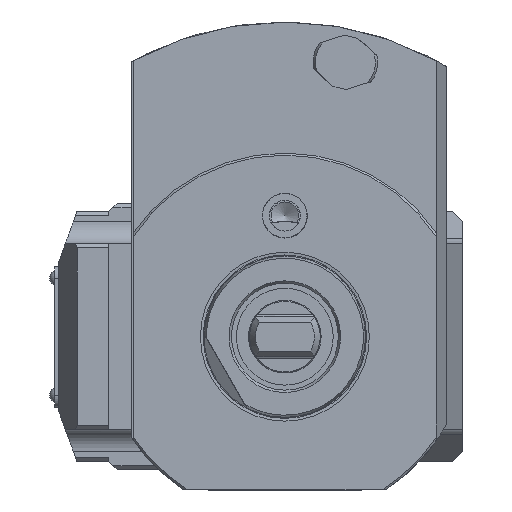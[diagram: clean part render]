
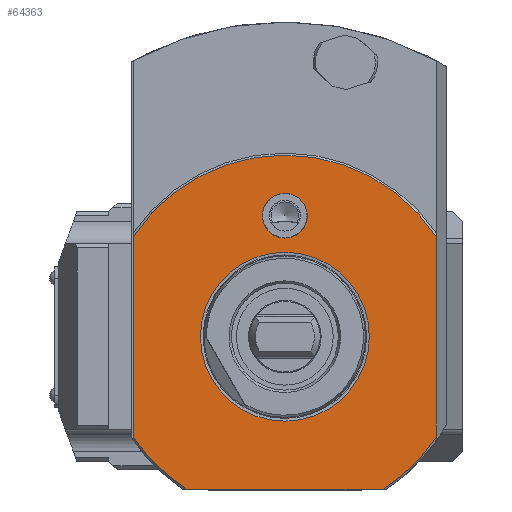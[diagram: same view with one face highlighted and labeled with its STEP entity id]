
A CAD part, left-side view. The second image highlights one B-rep face of the part: STEP entity #64363.
In plain terms, the highlighted planar face has unit normal (-1, 0, 0).
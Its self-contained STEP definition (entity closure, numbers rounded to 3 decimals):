
#24057=VECTOR('',#37035,1.);
#24058=VECTOR('',#37038,1.);
#24059=VECTOR('',#37041,1.);
#25086=LINE('',#42128,#24057);
#25087=LINE('',#42132,#24058);
#25088=LINE('',#42136,#24059);
#26103=PLANE('',#62948);
#26931=ORIENTED_EDGE('',*,*,#32811,.F.);
#26932=ORIENTED_EDGE('',*,*,#32812,.F.);
#26933=ORIENTED_EDGE('',*,*,#32813,.F.);
#26934=ORIENTED_EDGE('',*,*,#32814,.F.);
#26935=ORIENTED_EDGE('',*,*,#32815,.F.);
#26936=ORIENTED_EDGE('',*,*,#32816,.F.);
#26937=ORIENTED_EDGE('',*,*,#32817,.F.);
#26938=ORIENTED_EDGE('',*,*,#32810,.F.);
#30834=CIRCLE('',#62947,20.94);
#30835=CIRCLE('',#62949,45.);
#30836=CIRCLE('',#62950,45.);
#30837=CIRCLE('',#62951,45.);
#30838=CIRCLE('',#62952,5.55);
#31424=VERTEX_POINT('',#42123);
#31425=VERTEX_POINT('',#42126);
#31426=VERTEX_POINT('',#42127);
#31427=VERTEX_POINT('',#42129);
#31428=VERTEX_POINT('',#42131);
#31429=VERTEX_POINT('',#42133);
#31430=VERTEX_POINT('',#42135);
#31431=VERTEX_POINT('',#42138);
#32810=EDGE_CURVE('',#31424,#31424,#30834,.T.);
#32811=EDGE_CURVE('',#31425,#31426,#25086,.T.);
#32812=EDGE_CURVE('',#31427,#31425,#30835,.T.);
#32813=EDGE_CURVE('',#31428,#31427,#25087,.T.);
#32814=EDGE_CURVE('',#31429,#31428,#30836,.T.);
#32815=EDGE_CURVE('',#31430,#31429,#25088,.T.);
#32816=EDGE_CURVE('',#31426,#31430,#30837,.T.);
#32817=EDGE_CURVE('',#31431,#31431,#30838,.T.);
#34761=EDGE_LOOP('',(#26931,#26932,#26933,#26934,#26935,#26936));
#34762=EDGE_LOOP('',(#26937));
#34763=EDGE_LOOP('',(#26938));
#35828=FACE_BOUND('',#34761,.T.);
#35829=FACE_BOUND('',#34762,.T.);
#35830=FACE_BOUND('',#34763,.T.);
#37031=DIRECTION('',(-1.,0.,0.));
#37032=DIRECTION('',(0.,0.,-20.94));
#37033=DIRECTION('',(-1.,0.,0.));
#37034=DIRECTION('',(0.,1.,0.));
#37035=DIRECTION('',(0.,48.208,0.));
#37036=DIRECTION('',(1.,0.,0.));
#37037=DIRECTION('',(0.,-37.5,-24.875));
#37038=DIRECTION('',(0.,0.,-49.749));
#37039=DIRECTION('',(1.,0.,0.));
#37040=DIRECTION('',(0.,37.5,24.875));
#37041=DIRECTION('',(0.,0.,49.749));
#37042=DIRECTION('',(1.,0.,0.));
#37043=DIRECTION('',(0.,24.104,-38.));
#37044=DIRECTION('',(-1.,0.,0.));
#37045=DIRECTION('',(0.,0.,-5.55));
#42123=CARTESIAN_POINT('',(0.,0.,-20.94));
#42124=CARTESIAN_POINT('',(0.,0.,0.));
#42125=CARTESIAN_POINT('',(0.,-24.104,-38.));
#42126=CARTESIAN_POINT('',(0.,-24.104,-38.));
#42127=CARTESIAN_POINT('',(0.,24.104,-38.));
#42128=CARTESIAN_POINT('',(0.,-24.104,-38.));
#42129=CARTESIAN_POINT('',(0.,-37.5,-24.875));
#42130=CARTESIAN_POINT('',(0.,0.,0.));
#42131=CARTESIAN_POINT('',(0.,-37.5,24.875));
#42132=CARTESIAN_POINT('',(0.,-37.5,24.875));
#42133=CARTESIAN_POINT('',(0.,37.5,24.875));
#42134=CARTESIAN_POINT('',(0.,0.,0.));
#42135=CARTESIAN_POINT('',(0.,37.5,-24.875));
#42136=CARTESIAN_POINT('',(0.,37.5,-24.875));
#42137=CARTESIAN_POINT('',(0.,0.,0.));
#42138=CARTESIAN_POINT('',(0.,0.,24.45));
#42139=CARTESIAN_POINT('',(0.,0.,30.));
#62947=AXIS2_PLACEMENT_3D('',#42124,#37031,#37032);
#62948=AXIS2_PLACEMENT_3D('',#42125,#37033,#37034);
#62949=AXIS2_PLACEMENT_3D('',#42130,#37036,#37037);
#62950=AXIS2_PLACEMENT_3D('',#42134,#37039,#37040);
#62951=AXIS2_PLACEMENT_3D('',#42137,#37042,#37043);
#62952=AXIS2_PLACEMENT_3D('',#42139,#37044,#37045);
#64363=ADVANCED_FACE('',(#35828,#35829,#35830),#26103,.T.);
